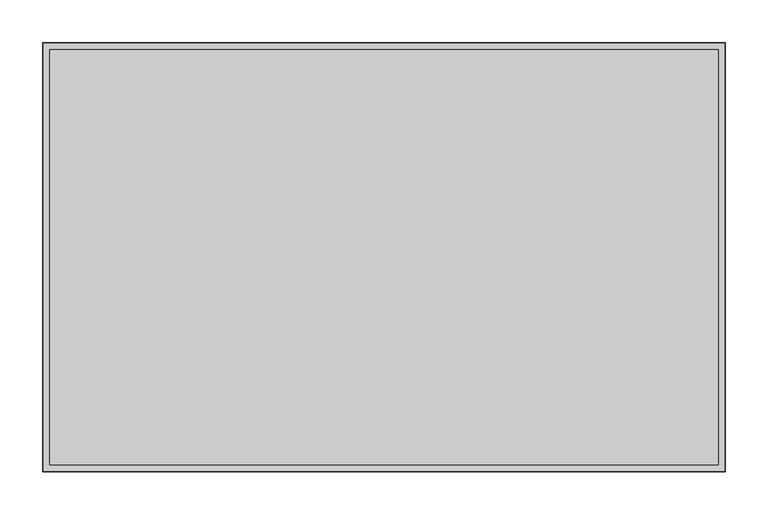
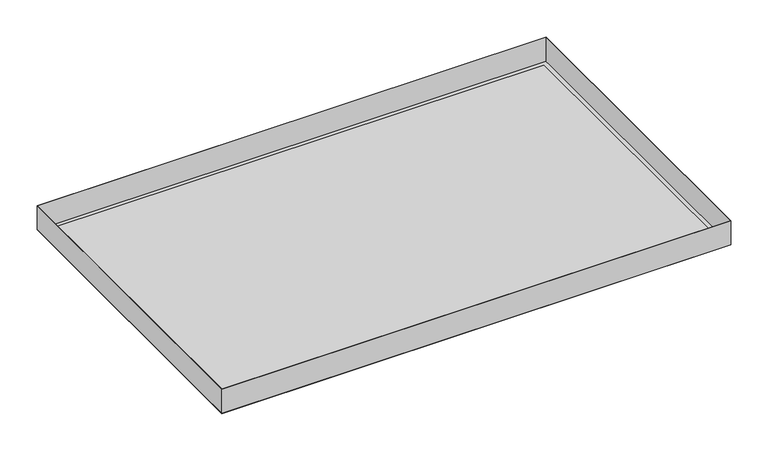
"""IFC4 building model written with IfcOpenShell, lengths in millimetres: proxy geometry, durlum_S4.7K_panel : durlum_S4.7_panel_wall_corner."""

import ifcopenshell
import ifcopenshell.guid

model = None  # the IFC model being written
_history = None  # IfcOwnerHistory: only IFC2X3 demands one
_inside = {}  # id of a spatial element -> (the spatial element, [elements in it])
_under = {}  # id of a project, library or spatial element -> (it, [spatial elements below it])
_declared = {}  # id of a project -> (the project, [libraries it declares])
_typed = {}  # id of a type object -> (the type object, [elements of that type])
_made_of = {}  # id of a material, layer set ... -> (it, [elements and type objects made of it])


def new_model(schema):
    """Start an empty IFC model of exactly this schema.

    Asked for "IFC4X3", IfcOpenShell would pick the latest addendum, in which some entities
    have other attributes; the version numbers below select the first issue.
    IFC2X3 requires an IfcOwnerHistory on every rooted entity: one is made here for all.
    """
    global model, _history
    if schema == "IFC4X3":
        model = ifcopenshell.file(schema_version=(4, 3, 0, 0))
    else:
        model = ifcopenshell.file(schema=schema)
    _inside.clear()
    _under.clear()
    _declared.clear()
    _typed.clear()
    _made_of.clear()
    _history = None
    if model.schema == "IFC2X3":
        org = make("IfcOrganization", Name="unknown")
        user = make(
            "IfcPersonAndOrganization",
            ThePerson=make("IfcPerson", FamilyName="unknown"),
            TheOrganization=org,
        )
        app = make(
            "IfcApplication",
            ApplicationDeveloper=org,
            Version="unknown",
            ApplicationFullName="unknown",
            ApplicationIdentifier="unknown",
        )
        _history = make(
            "IfcOwnerHistory",
            OwningUser=user,
            OwningApplication=app,
            ChangeAction="ADDED",
            CreationDate=0,
        )
    return model


def make(cls, **values):
    """One entity of the class cls with the attributes given. An attribute that is None is left unset."""
    return model.create_entity(
        cls, **{name: value for name, value in values.items() if value is not None}
    )


def rooted(cls, **values):
    """An entity with a GlobalId (a new one), such as an element, a storey or a relation."""
    return make(cls, GlobalId=ifcopenshell.guid.new(), OwnerHistory=_history, **values)


def si_unit(unit_type, name, prefix=None):
    """IfcSIUnit, for example si_unit("LENGTHUNIT", "METRE", prefix="MILLI")."""
    return make("IfcSIUnit", UnitType=unit_type, Prefix=prefix, Name=name)


def assignment(units):
    """IfcUnitAssignment: the units of a project."""
    return None if units is None else make("IfcUnitAssignment", Units=units)


def point(xyz):
    """IfcCartesianPoint."""
    return None if xyz is None else make("IfcCartesianPoint", Coordinates=xyz)


def direction(xyz):
    """IfcDirection."""
    return None if xyz is None else make("IfcDirection", DirectionRatios=xyz)


def frame(location, z_axis=None, x_axis=None):
    """IfcAxis2Placement3D, a coordinate frame: its origin and axes. An axis left out is left unset."""
    return make(
        "IfcAxis2Placement3D",
        Location=point(location),
        Axis=direction(z_axis),
        RefDirection=direction(x_axis),
    )


def origin():
    """The frame at (0, 0, 0) with its axes left unset."""
    return frame((0.0, 0.0, 0.0))


def origin_with_axes():
    """The frame at (0, 0, 0) with the z axis (0, 0, 1) and the x axis (1, 0, 0) written out."""
    return frame((0.0, 0.0, 0.0), z_axis=(0.0, 0.0, 1.0), x_axis=(1.0, 0.0, 0.0))


def place(relative_to, where):
    """IfcLocalPlacement: puts the frame where relative to a parent placement (None: the world)."""
    return make(
        "IfcLocalPlacement", PlacementRelTo=relative_to, RelativePlacement=where
    )


def context(
    kind, dimensions, precision=None, world=None, true_north=None, identifier=None
):
    """IfcGeometricRepresentationContext, for example the 3D "Model" context."""
    return make(
        "IfcGeometricRepresentationContext",
        ContextIdentifier=identifier,
        ContextType=kind,
        CoordinateSpaceDimension=dimensions,
        Precision=precision,
        WorldCoordinateSystem=world,
        TrueNorth=true_north,
    )


def project(units=None, contexts=None):
    """IfcProject with its units and contexts."""
    return rooted(
        "IfcProject",
        Name="project",
        RepresentationContexts=contexts,
        UnitsInContext=assignment(units),
    )


def spatial(cls, under=None, at=None, **own):
    """A site, building, storey or space (cls), placed at a placement, below another one or the project."""
    s = rooted(cls, ObjectPlacement=at, **own)
    if under is not None:
        _under.setdefault(under.id(), (under, []))[1].append(s)
    return s


def polyline(points):
    """IfcPolyline through the points."""
    return make("IfcPolyline", Points=[point(p) for p in points])


def outline(outer, holes=None, kind="AREA"):
    """IfcArbitraryClosedProfileDef: a profile drawn as a closed curve; with holes, ...WithVoids."""
    if holes is None:
        return make("IfcArbitraryClosedProfileDef", ProfileType=kind, OuterCurve=outer)
    return make(
        "IfcArbitraryProfileDefWithVoids",
        ProfileType=kind,
        OuterCurve=outer,
        InnerCurves=holes,
    )


def extrude(swept, where, along, depth):
    """IfcExtrudedAreaSolid: the profile swept, set in the frame where, extruded along a direction by depth."""
    return make(
        "IfcExtrudedAreaSolid",
        SweptArea=swept,
        Position=where,
        ExtrudedDirection=direction(along),
        Depth=depth,
    )


def shape(context_of_items, identifier, shape_type, items):
    """IfcShapeRepresentation: the items that make up one representation, for example the "Body"."""
    return make(
        "IfcShapeRepresentation",
        ContextOfItems=context_of_items,
        RepresentationIdentifier=identifier,
        RepresentationType=shape_type,
        Items=items,
    )


def source(mapping_origin, context_of_items, identifier, shape_type, items):
    """IfcRepresentationMap: a shape defined once, which mapped items show again and again."""
    return make(
        "IfcRepresentationMap",
        MappingOrigin=mapping_origin,
        MappedRepresentation=shape(context_of_items, identifier, shape_type, items),
    )


def transform(
    local_origin,
    x_axis=None,
    y_axis=None,
    z_axis=None,
    scale=None,
    scale2=None,
    scale3=None,
    uniform=True,
):
    """IfcCartesianTransformationOperator3D, or its non-uniform kind. x_axis, y_axis, z_axis: its Axis1, 2, 3."""
    if uniform:
        return make(
            "IfcCartesianTransformationOperator3D",
            Axis1=direction(x_axis),
            Axis2=direction(y_axis),
            LocalOrigin=point(local_origin),
            Scale=scale,
            Axis3=direction(z_axis),
        )
    return make(
        "IfcCartesianTransformationOperator3DnonUniform",
        Axis1=direction(x_axis),
        Axis2=direction(y_axis),
        LocalOrigin=point(local_origin),
        Scale=scale,
        Axis3=direction(z_axis),
        Scale2=scale2,
        Scale3=scale3,
    )


def mapped(mapping_source, mapping_target):
    """IfcMappedItem: shows the shape of a source again, moved by a transform."""
    return make(
        "IfcMappedItem", MappingSource=mapping_source, MappingTarget=mapping_target
    )


def made_of(thing, what):
    """Note that an element or type object is made of a material, layer set ...; save() writes the relation."""
    if what is not None:
        _made_of.setdefault(what.id(), (what, []))[1].append(thing)
    return thing


def element(
    cls,
    number,
    at=None,
    inside=None,
    cuts=None,
    type_object=None,
    material=None,
    context=None,
    identifier="Body",
    shape_type=None,
    held_by="IfcProductDefinitionShape",
    body=None,
    shapes=None,
    **own,
):
    """One element of the class cls, such as IfcWall. Its Tag is "e" and its number.

    at: its placement. inside: the storey or other place that contains it. cuts: it is an
    opening in that element (IfcRelVoidsElement). A single representation is given by context,
    identifier, shape_type and body (its items); several are given by shapes. held_by: the class
    of the entity that holds the representations. save() writes the other relations.
    """
    e = rooted(cls, Tag="e%d" % number, ObjectPlacement=at, **own)
    if body is not None:
        shapes = [shape(context, identifier, shape_type, body)]
    if shapes is not None:
        e.Representation = make(held_by, Representations=shapes)
    if inside is not None:
        _inside.setdefault(inside.id(), (inside, []))[1].append(e)
    if cuts is not None:
        rooted(
            "IfcRelVoidsElement", RelatingBuildingElement=cuts, RelatedOpeningElement=e
        )
    if type_object is not None:
        _typed.setdefault(type_object.id(), (type_object, []))[1].append(e)
    return made_of(e, material)


def aggregate(whole, parts):
    """IfcRelAggregates: a whole, such as a stair, and the parts it consists of."""
    return rooted("IfcRelAggregates", RelatingObject=whole, RelatedObjects=parts)


def save(model, path):
    """Write the relations noted so far, then the file.

    IfcRelAggregates (storeys below a building ...), IfcRelContainedInSpatialStructure (elements
    in a storey), IfcRelDefinesByType, IfcRelAssociatesMaterial and IfcRelDeclares: one each for
    every whole, place, type object, material and project.
    """
    for whole, parts in _under.values():
        aggregate(whole, parts)
    for where, things in _inside.values():
        rooted(
            "IfcRelContainedInSpatialStructure",
            RelatedElements=things,
            RelatingStructure=where,
        )
    for kind, things in _typed.values():
        rooted("IfcRelDefinesByType", RelatedObjects=things, RelatingType=kind)
    for what, things in _made_of.values():
        rooted("IfcRelAssociatesMaterial", RelatedObjects=things, RelatingMaterial=what)
    for by, libraries in _declared.values():
        rooted("IfcRelDeclares", RelatingContext=by, RelatedDefinitions=libraries)
    model.write(path)


def generic_models_30bc5e68(model_context):
    return source(origin(), model_context, "Body", "SweptSolid", [
        extrude(outline(polyline([(397.0, 249.75), (397.0, -249.75), (-397.0, -249.75), (-397.0, 249.75), (397.0, 249.75)]), holes=[polyline([(396.4, 249.15), (-396.4, 249.15), (-396.4, -249.15), (396.4, -249.15), (396.4, 249.15)])]), frame((0.0, 0.0, 0.6), z_axis=(0.0, 0.0, 1.0), x_axis=(1.0, 0.0, 0.0)), (0.0, 0.0, 1.0), 39.4),
        extrude(outline(polyline([(389.0, 241.75), (389.0, -241.75), (-389.0, -241.75), (-389.0, 241.75), (389.0, 241.75)])), frame((0.0, 0.0, 0.6), z_axis=(0.0, 0.0, 1.0), x_axis=(1.0, 0.0, 0.0)), (0.0, 0.0, 1.0), 0.6),
        extrude(outline(polyline([(397.0, 249.75), (397.0, -249.75), (-397.0, -249.75), (-397.0, 249.75), (397.0, 249.75)]), holes=[polyline([(389.0, 241.75), (-389.0, 241.75), (-389.0, -241.75), (389.0, -241.75), (389.0, 241.75)])]), origin_with_axes(), (0.0, 0.0, 1.0), 0.6),
        extrude(outline(polyline([(389.0, 241.75), (389.0, -241.75), (-389.0, -241.75), (-389.0, 241.75), (389.0, 241.75)])), origin_with_axes(), (0.0, 0.0, 1.0), 0.6),
    ])


if __name__ == "__main__":
    model = new_model("IFC4")
    model_context = context("Model", 3, world=origin())
    ifc_project = project(units=[si_unit("LENGTHUNIT", "METRE", prefix="MILLI")], contexts=[model_context])
    site = spatial("IfcSite", under=ifc_project)
    building = spatial("IfcBuilding", under=site)
    placement = place(None, origin())
    generic_models_shape = generic_models_30bc5e68(model_context)
    element("IfcBuildingElementProxy", 1, Name="durlum_S4.7K_panel : durlum_S4.7_panel_wall_corner", ObjectType="durlum_S4.7K_panel : durlum_S4.7_panel_wall_corner", at=placement, inside=building, context=model_context, shape_type="MappedRepresentation", body=[
        mapped(generic_models_shape, transform((0.0, 0.0, 0.0), x_axis=(1.0, 0.0, 0.0), y_axis=(0.0, 1.0, 0.0), z_axis=(0.0, 0.0, 1.0))),
    ])
    save(model, "model.ifc")
